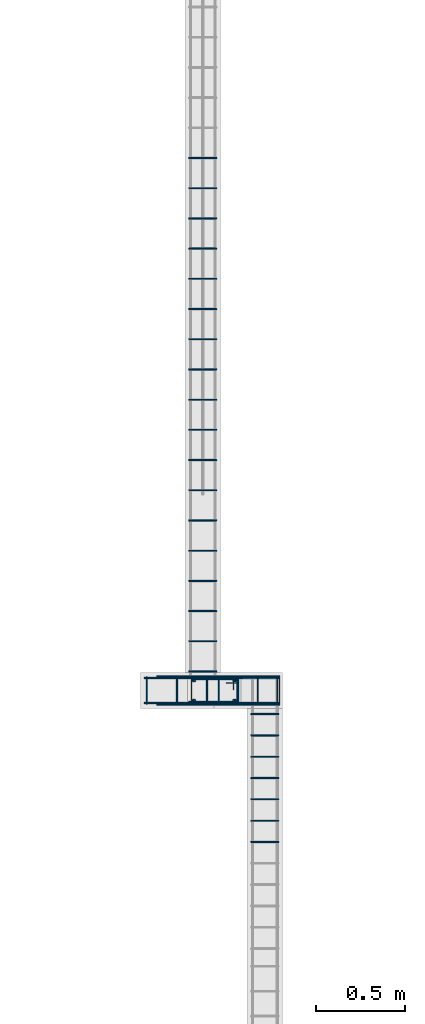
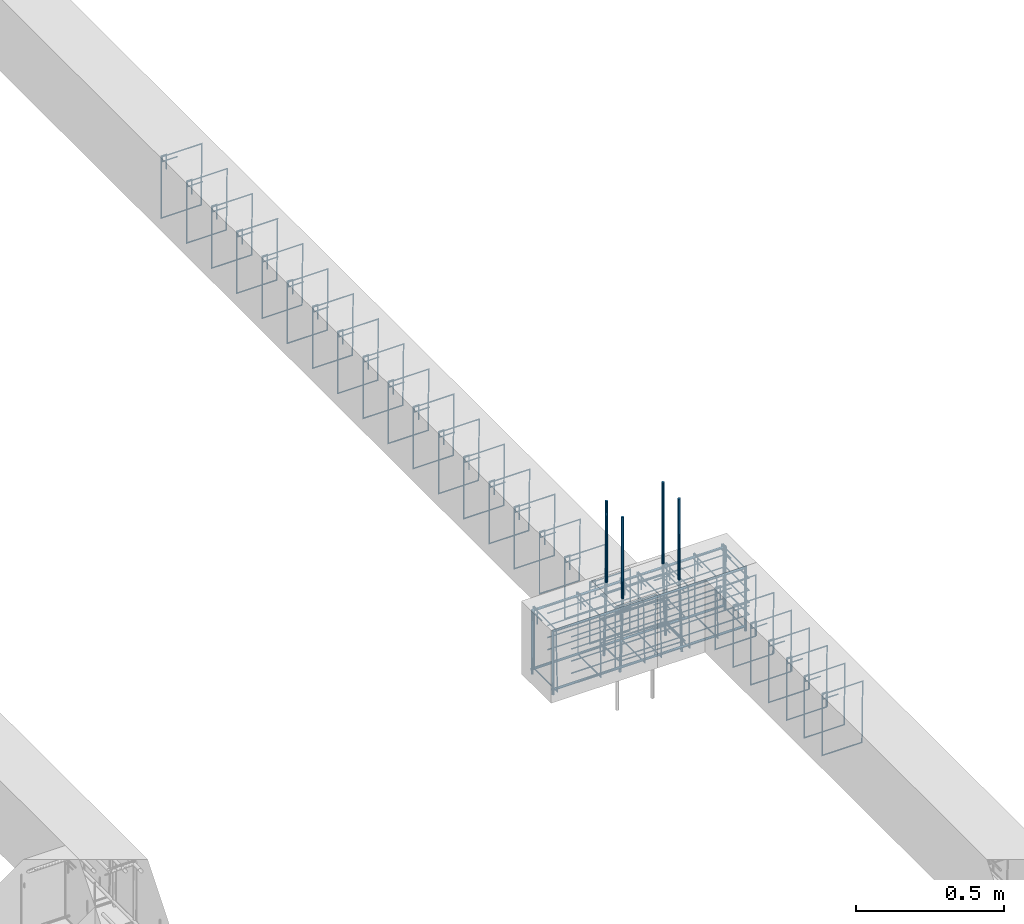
# One storey, part 99 of 150: 48 reinforcing bars.
"""IFC4 building model written with IfcOpenShell, lengths in centimetres."""

from ifc_helpers import new_model, entity, si_unit, derived_unit, frame, origin_with_axes, place, context, project, spatial, source, transform, mapped, element, save


model = new_model("IFC4")

# Units and contexts
model_context = context("Model", 3, precision=1e-05, world=origin_with_axes(), identifier="Body")
ifc_project = project(units=[si_unit("LENGTHUNIT", "METRE", prefix="CENTI"), si_unit("VOLUMEUNIT", "CUBIC_METRE"), si_unit("AREAUNIT", "SQUARE_METRE"), si_unit("POWERUNIT", "WATT"), si_unit("LUMINOUSFLUXUNIT", "LUMEN"), si_unit("ELECTRICCURRENTUNIT", "AMPERE"), si_unit("PRESSUREUNIT", "PASCAL", prefix="KILO"), si_unit("MASSUNIT", "GRAM", prefix="KILO"), si_unit("PLANEANGLEUNIT", "RADIAN"), derived_unit("VOLUMETRICFLOWRATEUNIT", [(si_unit("LENGTHUNIT", "METRE"), 3), (si_unit("TIMEUNIT", "SECOND"), -1)])], contexts=[model_context])

# Site, building, storey
site_placement = place(None, frame((-4000.0, 0.0, 0.0), z_axis=(0.0, 0.0, 1.0), x_axis=(1.0, 0.0, 0.0)))
site = spatial("IfcSite", under=ifc_project, at=site_placement, Name="PADRÃO")
building_placement = place(site_placement, frame((0.0, 0.0, -14.0)))
building = spatial("IfcBuilding", under=site, at=building_placement, Name="CRECHE PRÉ-ESCOLA TIPO 2")
placement = place(building_placement, origin_with_axes())
storey_placement = place(placement, frame((0.0, 0.0, 30.0), z_axis=(0.0, 0.0, 1.0), x_axis=(1.0, 0.0, 0.0)))
storey = spatial("IfcBuildingStorey", under=building, at=storey_placement, Name="VIGA BALDRAME", CompositionType="ELEMENT", Elevation=16.0)

# Reinforcing bars
shared_shape_1 = source(origin_with_axes(), model_context, "Body", "AdvancedSweptSolid", [
    entity("IfcSweptDiskSolid", entity("IfcCompositeCurve", [entity("IfcCompositeCurveSegment", "CONTINUOUS", True, entity("IfcPolyline", [entity("IfcCartesianPoint", [4.25, 21.75, 0.0]), entity("IfcCartesianPoint", [4.25, 27.75, 0.0])])), entity("IfcCompositeCurveSegment", "CONTINUOUS", True, entity("IfcPolyline", [entity("IfcCartesianPoint", [4.25, 27.75, 0.0]), entity("IfcCartesianPoint", [2.25, 27.75, 0.0])])), entity("IfcCompositeCurveSegment", "CONTINUOUS", True, entity("IfcPolyline", [entity("IfcCartesianPoint", [2.25, 27.75, 0.0]), entity("IfcCartesianPoint", [2.25, 2.25, 0.0])])), entity("IfcCompositeCurveSegment", "CONTINUOUS", True, entity("IfcPolyline", [entity("IfcCartesianPoint", [2.25, 2.25, 0.0]), entity("IfcCartesianPoint", [14.75, 2.25, 0.0])])), entity("IfcCompositeCurveSegment", "CONTINUOUS", True, entity("IfcPolyline", [entity("IfcCartesianPoint", [14.75, 2.25, 0.0]), entity("IfcCartesianPoint", [14.75, 27.75, -0.5])])), entity("IfcCompositeCurveSegment", "CONTINUOUS", True, entity("IfcPolyline", [entity("IfcCartesianPoint", [14.75, 27.75, -0.5]), entity("IfcCartesianPoint", [2.25, 27.75, -0.5])])), entity("IfcCompositeCurveSegment", "CONTINUOUS", True, entity("IfcPolyline", [entity("IfcCartesianPoint", [2.25, 27.75, -0.5]), entity("IfcCartesianPoint", [2.25, 25.75, -0.5])])), entity("IfcCompositeCurveSegment", "CONTINUOUS", True, entity("IfcPolyline", [entity("IfcCartesianPoint", [2.25, 25.75, -0.5]), entity("IfcCartesianPoint", [8.25, 25.75, -0.5])]))], False), 0.25),
])
for number, where, z_axis, x_axis, name in (
    (1, (3357.5, 1308.59, -5.0), (0.0, 0.0, 1.0), (0.0, -1.0, 0.0), "P113 - Estribo"),
    (2, (3357.5, 1308.59, -25.0), (0.0, 0.0, 1.0), (0.0, -1.0, 0.0), "P113 - Estribo"),
    (3, (3357.5, 1308.59, -15.0), (0.0, 0.0, 1.0), (0.0, -1.0, 0.0), "P113 - Estribo"),
):
    element("IfcReinforcingBar", number, at=place(storey_placement, frame(where, z_axis=z_axis, x_axis=x_axis)), inside=storey, Name=name, BarLength=0.0, CrossSectionArea=1.9634954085e-05, NominalDiameter=0.5, PredefinedType="MAIN", context=model_context, shape_type="MappedRepresentation", body=[
        mapped(shared_shape_1, transform((0.0, 0.0, 0.0), scale=1.0)),
    ])
shared_shape_2 = source(origin_with_axes(), model_context, "Body", "AdvancedSweptSolid", [
    entity("IfcSweptDiskSolid", entity("IfcCompositeCurve", [entity("IfcCompositeCurveSegment", "CONTINUOUS", True, entity("IfcPolyline", [entity("IfcCartesianPoint", [2.0, -6.0, 0.0]), entity("IfcCartesianPoint", [2.0, 0.0, 0.0])])), entity("IfcCompositeCurveSegment", "CONTINUOUS", True, entity("IfcPolyline", [entity("IfcCartesianPoint", [2.0, 0.0, 0.0]), entity("IfcCartesianPoint", [0.0, 0.0, 0.0])])), entity("IfcCompositeCurveSegment", "CONTINUOUS", True, entity("IfcPolyline", [entity("IfcCartesianPoint", [0.0, 0.0, 0.0]), entity("IfcCartesianPoint", [0.0, -25.5, 0.0])])), entity("IfcCompositeCurveSegment", "CONTINUOUS", True, entity("IfcPolyline", [entity("IfcCartesianPoint", [0.0, -25.5, 0.0]), entity("IfcCartesianPoint", [15.5, -25.5, 0.0])])), entity("IfcCompositeCurveSegment", "CONTINUOUS", True, entity("IfcPolyline", [entity("IfcCartesianPoint", [15.5, -25.5, 0.0]), entity("IfcCartesianPoint", [15.5, 0.0, 0.5])])), entity("IfcCompositeCurveSegment", "CONTINUOUS", True, entity("IfcPolyline", [entity("IfcCartesianPoint", [15.5, 0.0, 0.5]), entity("IfcCartesianPoint", [0.0, 0.0, 0.5])])), entity("IfcCompositeCurveSegment", "CONTINUOUS", True, entity("IfcPolyline", [entity("IfcCartesianPoint", [0.0, 0.0, 0.5]), entity("IfcCartesianPoint", [0.0, -2.0, 0.5])])), entity("IfcCompositeCurveSegment", "CONTINUOUS", True, entity("IfcPolyline", [entity("IfcCartesianPoint", [0.0, -2.0, 0.5]), entity("IfcCartesianPoint", [6.0, -2.0, 0.5])]))], False), 0.25),
])
for number, where, z_axis, x_axis, name in (
    (4, (3334.75, 1307.84, -2.25), (-1.0, 0.0, 0.0), (0.0, -1.0, 0.0), "V139 - Estribo"),
    (5, (3351.75, 1307.84, -2.25), (-1.0, 0.0, 0.0), (0.0, -1.0, 0.0), "V139 - Estribo"),
    (6, (3368.75, 1307.84, -2.25), (-1.0, 0.0, 0.0), (0.0, -1.0, 0.0), "V139 - Estribo"),
):
    element("IfcReinforcingBar", number, at=place(storey_placement, frame(where, z_axis=z_axis, x_axis=x_axis)), inside=storey, Name=name, BarLength=0.0, CrossSectionArea=1.9634954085e-05, NominalDiameter=0.5, PredefinedType="MAIN", context=model_context, shape_type="MappedRepresentation", body=[
        mapped(shared_shape_2, transform((0.0, 0.0, 0.0), scale=1.0)),
    ])
shared_shape_3 = source(origin_with_axes(), model_context, "Body", "AdvancedSweptSolid", [
    entity("IfcSweptDiskSolid", entity("IfcCompositeCurve", [entity("IfcCompositeCurveSegment", "CONTINUOUS", True, entity("IfcPolyline", [entity("IfcCartesianPoint", [2.0, -6.0, 0.0]), entity("IfcCartesianPoint", [2.0, 0.0, 0.0])])), entity("IfcCompositeCurveSegment", "CONTINUOUS", True, entity("IfcPolyline", [entity("IfcCartesianPoint", [2.0, 0.0, 0.0]), entity("IfcCartesianPoint", [0.0, 0.0, 0.0])])), entity("IfcCompositeCurveSegment", "CONTINUOUS", True, entity("IfcPolyline", [entity("IfcCartesianPoint", [0.0, 0.0, 0.0]), entity("IfcCartesianPoint", [0.0, -25.5, 0.0])])), entity("IfcCompositeCurveSegment", "CONTINUOUS", True, entity("IfcPolyline", [entity("IfcCartesianPoint", [0.0, -25.5, 0.0]), entity("IfcCartesianPoint", [15.5, -25.5, 0.0])])), entity("IfcCompositeCurveSegment", "CONTINUOUS", True, entity("IfcPolyline", [entity("IfcCartesianPoint", [15.5, -25.5, 0.0]), entity("IfcCartesianPoint", [15.5, 0.0, 0.5])])), entity("IfcCompositeCurveSegment", "CONTINUOUS", True, entity("IfcPolyline", [entity("IfcCartesianPoint", [15.5, 0.0, 0.5]), entity("IfcCartesianPoint", [0.0, 0.0, 0.5])])), entity("IfcCompositeCurveSegment", "CONTINUOUS", True, entity("IfcPolyline", [entity("IfcCartesianPoint", [0.0, 0.0, 0.5]), entity("IfcCartesianPoint", [0.0, -2.0, 0.5])])), entity("IfcCompositeCurveSegment", "CONTINUOUS", True, entity("IfcPolyline", [entity("IfcCartesianPoint", [0.0, -2.0, 0.5]), entity("IfcCartesianPoint", [6.0, -2.0, 0.5])]))], False), 0.25),
])
for number, where, z_axis, x_axis, name in (
    (7, (3408.24, 1307.84, -2.25), (-1.0, 0.0, 0.0), (0.0, -1.0, 0.0), "V139 - Estribo"),
    (8, (3386.24, 1307.84, -2.25), (-1.0, 0.0, 0.0), (0.0, -1.0, 0.0), "V139 - Estribo"),
    (9, (3375.24, 1307.84, -2.25), (-1.0, 0.0, 0.0), (0.0, -1.0, 0.0), "V139 - Estribo"),
    (10, (3397.24, 1307.84, -2.25), (-1.0, 0.0, 0.0), (0.0, -1.0, 0.0), "V139 - Estribo"),
):
    element("IfcReinforcingBar", number, at=place(storey_placement, frame(where, z_axis=z_axis, x_axis=x_axis)), inside=storey, Name=name, BarLength=0.0, CrossSectionArea=1.9634954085e-05, NominalDiameter=0.5, PredefinedType="MAIN", context=model_context, shape_type="MappedRepresentation", body=[
        mapped(shared_shape_3, transform((0.0, 0.0, 0.0), scale=1.0)),
    ])
shared_shape_4 = source(origin_with_axes(), model_context, "Body", "AdvancedSweptSolid", [
    entity("IfcSweptDiskSolid", entity("IfcCompositeCurve", [entity("IfcCompositeCurveSegment", "CONTINUOUS", True, entity("IfcPolyline", [entity("IfcCartesianPoint", [0.0, 0.0, 0.0]), entity("IfcCartesianPoint", [69.1813828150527, 0.0, 0.0])])), entity("IfcCompositeCurveSegment", "CONTINUOUS", True, entity("IfcPolyline", [entity("IfcCartesianPoint", [69.1813828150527, 0.0, 0.0]), entity("IfcCartesianPoint", [69.1813828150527, 16.0, 0.0])])), entity("IfcCompositeCurveSegment", "CONTINUOUS", True, entity("IfcPolyline", [entity("IfcCartesianPoint", [69.1813828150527, 16.0, 0.0]), entity("IfcCartesianPoint", [0.0, 16.0, 0.0])]))], False), 0.25),
])
for number, where, z_axis, x_axis, name in (
    (11, (3340.04861718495, 1292.09, -7.0), (0.0, 0.0, 1.0), (1.0, 0.0, 0.0), "V139 - Grampo"),
    (12, (3340.04861718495, 1292.09, -12.0), (0.0, 0.0, 1.0), (1.0, 0.0, 0.0), "V139 - Grampo"),
    (13, (3340.04861718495, 1292.09, -17.0), (0.0, 0.0, 1.0), (1.0, 0.0, 0.0), "V139 - Grampo"),
    (14, (3340.04861718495, 1292.09, -22.0), (0.0, 0.0, 1.0), (1.0, 0.0, 0.0), "V139 - Grampo"),
):
    element("IfcReinforcingBar", number, at=place(storey_placement, frame(where, z_axis=z_axis, x_axis=x_axis)), inside=storey, Name=name, BarLength=0.0, CrossSectionArea=1.9634954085e-05, NominalDiameter=0.5, PredefinedType="MAIN", context=model_context, shape_type="MappedRepresentation", body=[
        mapped(shared_shape_4, transform((0.0, 0.0, 0.0), scale=1.0)),
    ])
shared_shape_5 = source(origin_with_axes(), model_context, "Body", "AdvancedSweptSolid", [
    entity("IfcSweptDiskSolid", entity("IfcCompositeCurve", [entity("IfcCompositeCurveSegment", "CONTINUOUS", True, entity("IfcPolyline", [entity("IfcCartesianPoint", [2.0, -6.0, 0.0]), entity("IfcCartesianPoint", [2.0, 0.0, 0.0])])), entity("IfcCompositeCurveSegment", "CONTINUOUS", True, entity("IfcPolyline", [entity("IfcCartesianPoint", [2.0, 0.0, 0.0]), entity("IfcCartesianPoint", [0.0, 0.0, 0.0])])), entity("IfcCompositeCurveSegment", "CONTINUOUS", True, entity("IfcPolyline", [entity("IfcCartesianPoint", [0.0, 0.0, 0.0]), entity("IfcCartesianPoint", [0.0, -25.5, 0.0])])), entity("IfcCompositeCurveSegment", "CONTINUOUS", True, entity("IfcPolyline", [entity("IfcCartesianPoint", [0.0, -25.5, 0.0]), entity("IfcCartesianPoint", [15.5, -25.5, 0.0])])), entity("IfcCompositeCurveSegment", "CONTINUOUS", True, entity("IfcPolyline", [entity("IfcCartesianPoint", [15.5, -25.5, 0.0]), entity("IfcCartesianPoint", [15.5, 0.0, 0.5])])), entity("IfcCompositeCurveSegment", "CONTINUOUS", True, entity("IfcPolyline", [entity("IfcCartesianPoint", [15.5, 0.0, 0.5]), entity("IfcCartesianPoint", [0.0, 0.0, 0.5])])), entity("IfcCompositeCurveSegment", "CONTINUOUS", True, entity("IfcPolyline", [entity("IfcCartesianPoint", [0.0, 0.0, 0.5]), entity("IfcCartesianPoint", [0.0, -2.0, 0.5])])), entity("IfcCompositeCurveSegment", "CONTINUOUS", True, entity("IfcPolyline", [entity("IfcCartesianPoint", [0.0, -2.0, 0.5]), entity("IfcCartesianPoint", [6.0, -2.0, 0.5])]))], False), 0.25),
])
for number, where, z_axis, x_axis, name in (
    (15, (3393.23, 1275.085, -2.25), (0.0, -1.0, 0.0), (1.0, 0.0, 0.0), "V225 - Estribo"),
    (16, (3393.23, 1287.085, -2.25), (0.0, -1.0, 0.0), (1.0, 0.0, 0.0), "V225 - Estribo"),
    (17, (3393.23, 1263.085, -2.25), (0.0, -1.0, 0.0), (1.0, 0.0, 0.0), "V225 - Estribo"),
    (18, (3393.23, 1251.085, -2.25), (0.0, -1.0, 0.0), (1.0, 0.0, 0.0), "V225 - Estribo"),
    (19, (3393.23, 1239.085, -2.25), (0.0, -1.0, 0.0), (1.0, 0.0, 0.0), "V225 - Estribo"),
    (20, (3393.23, 1227.085, -2.25), (0.0, -1.0, 0.0), (1.0, 0.0, 0.0), "V225 - Estribo"),
    (21, (3393.23, 1215.085, -2.25), (0.0, -1.0, 0.0), (1.0, 0.0, 0.0), "V225 - Estribo"),
):
    element("IfcReinforcingBar", number, at=place(storey_placement, frame(where, z_axis=z_axis, x_axis=x_axis)), inside=storey, Name=name, BarLength=0.0, CrossSectionArea=1.9634954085e-05, NominalDiameter=0.5, PredefinedType="MAIN", context=model_context, shape_type="MappedRepresentation", body=[
        mapped(shared_shape_5, transform((0.0, 0.0, 0.0), scale=1.0)),
    ])
shared_shape_6 = source(origin_with_axes(), model_context, "Body", "AdvancedSweptSolid", [
    entity("IfcSweptDiskSolid", entity("IfcCompositeCurve", [entity("IfcCompositeCurveSegment", "CONTINUOUS", True, entity("IfcPolyline", [entity("IfcCartesianPoint", [2.0, -6.0, 0.0]), entity("IfcCartesianPoint", [2.0, 0.0, 0.0])])), entity("IfcCompositeCurveSegment", "CONTINUOUS", True, entity("IfcPolyline", [entity("IfcCartesianPoint", [2.0, 0.0, 0.0]), entity("IfcCartesianPoint", [0.0, 0.0, 0.0])])), entity("IfcCompositeCurveSegment", "CONTINUOUS", True, entity("IfcPolyline", [entity("IfcCartesianPoint", [0.0, 0.0, 0.0]), entity("IfcCartesianPoint", [0.0, -25.5, 0.0])])), entity("IfcCompositeCurveSegment", "CONTINUOUS", True, entity("IfcPolyline", [entity("IfcCartesianPoint", [0.0, -25.5, 0.0]), entity("IfcCartesianPoint", [15.5, -25.5, 0.0])])), entity("IfcCompositeCurveSegment", "CONTINUOUS", True, entity("IfcPolyline", [entity("IfcCartesianPoint", [15.5, -25.5, 0.0]), entity("IfcCartesianPoint", [15.5, 0.0, 0.5])])), entity("IfcCompositeCurveSegment", "CONTINUOUS", True, entity("IfcPolyline", [entity("IfcCartesianPoint", [15.5, 0.0, 0.5]), entity("IfcCartesianPoint", [0.0, 0.0, 0.5])])), entity("IfcCompositeCurveSegment", "CONTINUOUS", True, entity("IfcPolyline", [entity("IfcCartesianPoint", [0.0, 0.0, 0.5]), entity("IfcCartesianPoint", [0.0, -2.0, 0.5])])), entity("IfcCompositeCurveSegment", "CONTINUOUS", True, entity("IfcPolyline", [entity("IfcCartesianPoint", [0.0, -2.0, 0.5]), entity("IfcCartesianPoint", [6.0, -2.0, 0.5])]))], False), 0.25),
])
for number, where, z_axis, x_axis, name in (
    (22, (3358.25, 1600.055, -2.25), (0.0, -1.0, 0.0), (1.0, 0.0, 0.0), "V226 - Estribo"),
    (23, (3358.25, 1583.055, -2.25), (0.0, -1.0, 0.0), (1.0, 0.0, 0.0), "V226 - Estribo"),
    (24, (3358.25, 1566.055, -2.25), (0.0, -1.0, 0.0), (1.0, 0.0, 0.0), "V226 - Estribo"),
    (25, (3358.25, 1549.055, -2.25), (0.0, -1.0, 0.0), (1.0, 0.0, 0.0), "V226 - Estribo"),
    (26, (3358.25, 1532.055, -2.25), (0.0, -1.0, 0.0), (1.0, 0.0, 0.0), "V226 - Estribo"),
    (27, (3358.25, 1515.055, -2.25), (0.0, -1.0, 0.0), (1.0, 0.0, 0.0), "V226 - Estribo"),
    (28, (3358.25, 1498.055, -2.25), (0.0, -1.0, 0.0), (1.0, 0.0, 0.0), "V226 - Estribo"),
    (29, (3358.25, 1481.055, -2.25), (0.0, -1.0, 0.0), (1.0, 0.0, 0.0), "V226 - Estribo"),
    (30, (3358.25, 1464.055, -2.25), (0.0, -1.0, 0.0), (1.0, 0.0, 0.0), "V226 - Estribo"),
    (31, (3358.25, 1447.055, -2.25), (0.0, -1.0, 0.0), (1.0, 0.0, 0.0), "V226 - Estribo"),
    (32, (3358.25, 1430.055, -2.25), (0.0, -1.0, 0.0), (1.0, 0.0, 0.0), "V226 - Estribo"),
    (33, (3358.25, 1413.055, -2.25), (0.0, -1.0, 0.0), (1.0, 0.0, 0.0), "V226 - Estribo"),
    (34, (3358.25, 1396.055, -2.25), (0.0, -1.0, 0.0), (1.0, 0.0, 0.0), "V226 - Estribo"),
    (35, (3358.25, 1379.055, -2.25), (0.0, -1.0, 0.0), (1.0, 0.0, 0.0), "V226 - Estribo"),
    (36, (3358.25, 1345.055, -2.25), (0.0, -1.0, 0.0), (1.0, 0.0, 0.0), "V226 - Estribo"),
    (37, (3358.25, 1328.055, -2.25), (0.0, -1.0, 0.0), (1.0, 0.0, 0.0), "V226 - Estribo"),
    (38, (3358.25, 1311.055, -2.25), (0.0, -1.0, 0.0), (1.0, 0.0, 0.0), "V226 - Estribo"),
    (39, (3358.25, 1294.055, -2.25), (0.0, -1.0, 0.0), (1.0, 0.0, 0.0), "V226 - Estribo"),
    (40, (3358.25, 1362.055, -2.25), (0.0, -1.0, 0.0), (1.0, 0.0, 0.0), "V226 - Estribo"),
):
    element("IfcReinforcingBar", number, at=place(storey_placement, frame(where, z_axis=z_axis, x_axis=x_axis)), inside=storey, Name=name, BarLength=0.0, CrossSectionArea=1.9634954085e-05, NominalDiameter=0.5, PredefinedType="MAIN", context=model_context, shape_type="MappedRepresentation", body=[
        mapped(shared_shape_6, transform((0.0, 0.0, 0.0), scale=1.0)),
    ])
for number, where, z_axis, x_axis, name in (
    (41, (3361.00013877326, 1294.59, 33.3573001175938), (0.0, 0.0, 1.0), (1.0, 0.0, 0.0), "P113 - Longitudinal"),
    (42, (3361.00013877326, 1305.59, 33.3573001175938), (0.0, 0.0, 1.0), (1.0, 0.0, 0.0), "P113 - Longitudinal"),
):
    element("IfcReinforcingBar", number, at=place(storey_placement, frame(where, z_axis=z_axis, x_axis=x_axis)), inside=storey, Name=name, BarLength=0.0, CrossSectionArea=7.853981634e-05, NominalDiameter=1.0, PredefinedType="MAIN", context=model_context, shape_type="AdvancedSweptSolid", body=[
        entity("IfcSweptDiskSolid", entity("IfcCompositeCurve", [entity("IfcCompositeCurveSegment", "CONTINUOUS", True, entity("IfcPolyline", [entity("IfcCartesianPoint", [-0.500138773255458, 0.0, -63.3573001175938]), entity("IfcCartesianPoint", [0.499861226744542, 0.0, -33.3573001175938])])), entity("IfcCompositeCurveSegment", "CONTINUOUS", True, entity("IfcPolyline", [entity("IfcCartesianPoint", [0.499861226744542, 0.0, -33.3573001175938]), entity("IfcCartesianPoint", [0.499861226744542, 0.0, 0.0])]))], False), 0.5),
    ])
for number, where, z_axis, x_axis, name in (
    (43, (3383.99986122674, 1294.59, 33.3573001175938), (0.0, 0.0, 1.0), (1.0, 0.0, 0.0), "P113 - Longitudinal"),
    (44, (3383.99986122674, 1305.59, 33.3573001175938), (0.0, 0.0, 1.0), (1.0, 0.0, 0.0), "P113 - Longitudinal"),
):
    element("IfcReinforcingBar", number, at=place(storey_placement, frame(where, z_axis=z_axis, x_axis=x_axis)), inside=storey, Name=name, BarLength=0.0, CrossSectionArea=7.853981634e-05, NominalDiameter=1.0, PredefinedType="MAIN", context=model_context, shape_type="AdvancedSweptSolid", body=[
        entity("IfcSweptDiskSolid", entity("IfcCompositeCurve", [entity("IfcCompositeCurveSegment", "CONTINUOUS", True, entity("IfcPolyline", [entity("IfcCartesianPoint", [0.500138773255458, 0.0, -63.3573001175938]), entity("IfcCartesianPoint", [-0.499861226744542, 0.0, -33.3573001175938])])), entity("IfcCompositeCurveSegment", "CONTINUOUS", True, entity("IfcPolyline", [entity("IfcCartesianPoint", [-0.499861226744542, 0.0, -33.3573001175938]), entity("IfcCartesianPoint", [-0.499861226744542, 0.0, 0.0])]))], False), 0.5),
    ])
for number, where, z_axis, x_axis, name in (
    (45, (3370.99234391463, 1307.09, -2.6), (0.0, 0.0, 1.0), (1.0, 0.0, 0.0), "V139 - Longitudinal inferior"),
    (46, (3370.99234391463, 1293.09, -2.6), (0.0, 0.0, 1.0), (1.0, 0.0, 0.0), "V139 - Longitudinal inferior"),
):
    element("IfcReinforcingBar", number, at=place(storey_placement, frame(where, z_axis=z_axis, x_axis=x_axis)), inside=storey, Name=name, BarLength=0.0, CrossSectionArea=7.853981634e-05, NominalDiameter=1.0, PredefinedType="MAIN", context=model_context, shape_type="AdvancedSweptSolid", body=[
        entity("IfcSweptDiskSolid", entity("IfcCompositeCurve", [entity("IfcCompositeCurveSegment", "CONTINUOUS", True, entity("IfcPolyline", [entity("IfcCartesianPoint", [-37.9923439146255, 0.0, -24.4]), entity("IfcCartesianPoint", [37.4876560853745, 0.0, -24.4])])), entity("IfcCompositeCurveSegment", "CONTINUOUS", True, entity("IfcPolyline", [entity("IfcCartesianPoint", [37.4876560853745, 0.0, -24.4]), entity("IfcCartesianPoint", [37.4876560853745, 0.0, 0.0])]))], False), 0.5),
    ])
for number, where, z_axis, x_axis, name in (
    (47, (3370.99, 1307.09, -2.49531217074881), (0.0, 0.0, 1.0), (1.0, 0.0, 0.0), "V139 - Longitudinal superior"),
    (48, (3370.99, 1293.09, -2.49531217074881), (0.0, 0.0, 1.0), (1.0, 0.0, 0.0), "V139 - Longitudinal superior"),
):
    element("IfcReinforcingBar", number, at=place(storey_placement, frame(where, z_axis=z_axis, x_axis=x_axis)), inside=storey, Name=name, BarLength=0.0, CrossSectionArea=7.853981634e-05, NominalDiameter=1.0, PredefinedType="MAIN", context=model_context, shape_type="AdvancedSweptSolid", body=[
        entity("IfcSweptDiskSolid", entity("IfcCompositeCurve", [entity("IfcCompositeCurveSegment", "CONTINUOUS", True, entity("IfcPolyline", [entity("IfcCartesianPoint", [-37.49, 0.0, -26.5046878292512]), entity("IfcCartesianPoint", [-37.49, 0.0, -0.504687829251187])])), entity("IfcCompositeCurveSegment", "CONTINUOUS", True, entity("IfcPolyline", [entity("IfcCartesianPoint", [-37.49, 0.0, -0.504687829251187]), entity("IfcCartesianPoint", [37.49, 0.0, -0.504687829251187])])), entity("IfcCompositeCurveSegment", "CONTINUOUS", True, entity("IfcPolyline", [entity("IfcCartesianPoint", [37.49, 0.0, -0.504687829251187]), entity("IfcCartesianPoint", [37.49, 0.0, -26.5046878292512])]))], False), 0.5),
    ])

save(model, "model.ifc")
